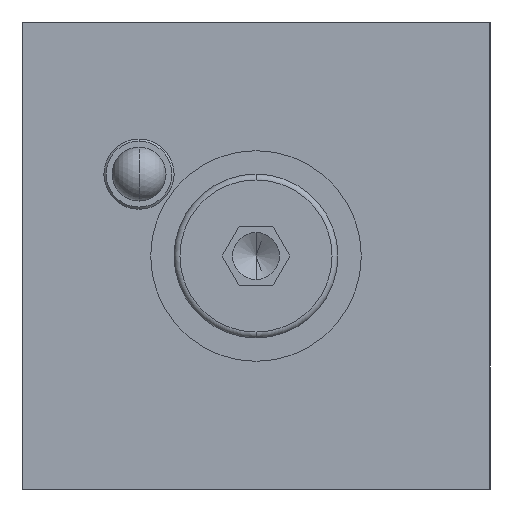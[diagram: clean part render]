
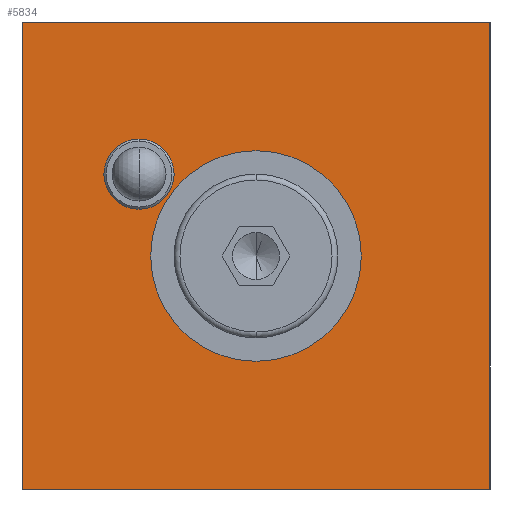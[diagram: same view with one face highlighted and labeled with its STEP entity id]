
A CAD part, left-side view. The second image highlights one B-rep face of the part: STEP entity #5834.
In plain terms, the highlighted planar face has unit normal (-1, 0, 0).
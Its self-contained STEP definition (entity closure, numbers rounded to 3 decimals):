
#99 = CARTESIAN_POINT ( 'NONE',  ( 0., 0., 0. ) ) ;
#203 = CARTESIAN_POINT ( 'NONE',  ( 0., 20., -20. ) ) ;
#257 = EDGE_LOOP ( 'NONE', ( #1617, #1527, #11479, #8719 ) ) ;
#259 = AXIS2_PLACEMENT_3D ( 'NONE', #2767, #2821, #8338 ) ;
#400 = CARTESIAN_POINT ( 'NONE',  ( 0., -20., -20. ) ) ;
#431 = CIRCLE ( 'NONE', #5476, 9. ) ;
#1111 = VECTOR ( 'NONE', #7931, 1000. ) ;
#1343 = EDGE_CURVE ( 'NONE', #2672, #2976, #7592, .T. ) ;
#1425 = VERTEX_POINT ( 'NONE', #8017 ) ;
#1527 = ORIENTED_EDGE ( 'NONE', *, *, #9905, .F. ) ;
#1584 = CIRCLE ( 'NONE', #11331, 9. ) ;
#1594 = CARTESIAN_POINT ( 'NONE',  ( 0., 9., 0. ) ) ;
#1617 = ORIENTED_EDGE ( 'NONE', *, *, #9224, .T. ) ;
#1655 = ORIENTED_EDGE ( 'NONE', *, *, #9370, .F. ) ;
#1780 = ORIENTED_EDGE ( 'NONE', *, *, #9886, .F. ) ;
#1802 = ORIENTED_EDGE ( 'NONE', *, *, #1343, .F. ) ;
#1942 = VERTEX_POINT ( 'NONE', #400 ) ;
#2063 = CARTESIAN_POINT ( 'NONE',  ( 0., -20., -20. ) ) ;
#2188 = ORIENTED_EDGE ( 'NONE', *, *, #9865, .F. ) ;
#2473 = CARTESIAN_POINT ( 'NONE',  ( 0., 0., 0. ) ) ;
#2672 = VERTEX_POINT ( 'NONE', #3518 ) ;
#2767 = CARTESIAN_POINT ( 'NONE',  ( 0., 10., 7. ) ) ;
#2786 = LINE ( 'NONE', #9026, #8252 ) ;
#2821 = DIRECTION ( 'NONE',  ( -1., 0., 0. ) ) ;
#2976 = VERTEX_POINT ( 'NONE', #8058 ) ;
#3518 = CARTESIAN_POINT ( 'NONE',  ( 0., 13., 7. ) ) ;
#3683 = CARTESIAN_POINT ( 'NONE',  ( 0., -20., 20. ) ) ;
#3792 = LINE ( 'NONE', #5095, #1111 ) ;
#4346 = DIRECTION ( 'NONE',  ( 0., -1., 0. ) ) ;
#4658 = VERTEX_POINT ( 'NONE', #5430 ) ;
#4705 = LINE ( 'NONE', #2063, #7884 ) ;
#4755 = DIRECTION ( 'NONE',  ( -1., 0., 0. ) ) ;
#5095 = CARTESIAN_POINT ( 'NONE',  ( 0., 20., -20. ) ) ;
#5430 = CARTESIAN_POINT ( 'NONE',  ( 0., -9., 0. ) ) ;
#5476 = AXIS2_PLACEMENT_3D ( 'NONE', #2473, #4755, #7882 ) ;
#5784 = DIRECTION ( 'NONE',  ( 0., 0., 1. ) ) ;
#5834 = ADVANCED_FACE ( 'NONE', ( #7121, #6790, #6865 ), #9324, .T. ) ;
#5906 = EDGE_LOOP ( 'NONE', ( #1780, #1655 ) ) ;
#5979 = CARTESIAN_POINT ( 'NONE',  ( 0., 10., 7. ) ) ;
#6137 = DIRECTION ( 'NONE',  ( -1., 0., 0. ) ) ;
#6790 = FACE_BOUND ( 'NONE', #5906, .T. ) ;
#6865 = FACE_OUTER_BOUND ( 'NONE', #257, .T. ) ;
#6936 = VERTEX_POINT ( 'NONE', #3683 ) ;
#7121 = FACE_BOUND ( 'NONE', #7183, .T. ) ;
#7183 = EDGE_LOOP ( 'NONE', ( #2188, #1802 ) ) ;
#7592 = CIRCLE ( 'NONE', #259, 3. ) ;
#7605 = LINE ( 'NONE', #203, #8197 ) ;
#7882 = DIRECTION ( 'NONE',  ( 0., -1., 0. ) ) ;
#7884 = VECTOR ( 'NONE', #5784, 1000. ) ;
#7898 = DIRECTION ( 'NONE',  ( -1., 0., 0. ) ) ;
#7931 = DIRECTION ( 'NONE',  ( 0., 0., 1. ) ) ;
#8017 = CARTESIAN_POINT ( 'NONE',  ( 0., 20., 20. ) ) ;
#8058 = CARTESIAN_POINT ( 'NONE',  ( 0., 7., 7. ) ) ;
#8197 = VECTOR ( 'NONE', #4346, 1000. ) ;
#8252 = VECTOR ( 'NONE', #9121, 1000. ) ;
#8284 = AXIS2_PLACEMENT_3D ( 'NONE', #8564, #8514, #8513 ) ;
#8338 = DIRECTION ( 'NONE',  ( 0., -1., 0. ) ) ;
#8468 = DIRECTION ( 'NONE',  ( 0., -1., 0. ) ) ;
#8513 = DIRECTION ( 'NONE',  ( 0., -1., 0. ) ) ;
#8514 = DIRECTION ( 'NONE',  ( -1., 0., 0. ) ) ;
#8564 = CARTESIAN_POINT ( 'NONE',  ( 0., 20., -20. ) ) ;
#8719 = ORIENTED_EDGE ( 'NONE', *, *, #9270, .T. ) ;
#8948 = CARTESIAN_POINT ( 'NONE',  ( 0., 20., -20. ) ) ;
#9026 = CARTESIAN_POINT ( 'NONE',  ( 0., 20., 20. ) ) ;
#9121 = DIRECTION ( 'NONE',  ( 0., -1., 0. ) ) ;
#9224 = EDGE_CURVE ( 'NONE', #1942, #6936, #4705, .T. ) ;
#9270 = EDGE_CURVE ( 'NONE', #10812, #1942, #7605, .T. ) ;
#9324 = PLANE ( 'NONE',  #8284 ) ;
#9370 = EDGE_CURVE ( 'NONE', #9722, #4658, #431, .T. ) ;
#9722 = VERTEX_POINT ( 'NONE', #1594 ) ;
#9736 = EDGE_CURVE ( 'NONE', #10812, #1425, #3792, .T. ) ;
#9865 = EDGE_CURVE ( 'NONE', #2976, #2672, #9891, .T. ) ;
#9886 = EDGE_CURVE ( 'NONE', #4658, #9722, #1584, .T. ) ;
#9891 = CIRCLE ( 'NONE', #11867, 3. ) ;
#9905 = EDGE_CURVE ( 'NONE', #1425, #6936, #2786, .T. ) ;
#10812 = VERTEX_POINT ( 'NONE', #8948 ) ;
#11331 = AXIS2_PLACEMENT_3D ( 'NONE', #99, #7898, #11519 ) ;
#11479 = ORIENTED_EDGE ( 'NONE', *, *, #9736, .F. ) ;
#11519 = DIRECTION ( 'NONE',  ( 0., -1., 0. ) ) ;
#11867 = AXIS2_PLACEMENT_3D ( 'NONE', #5979, #6137, #8468 ) ;
